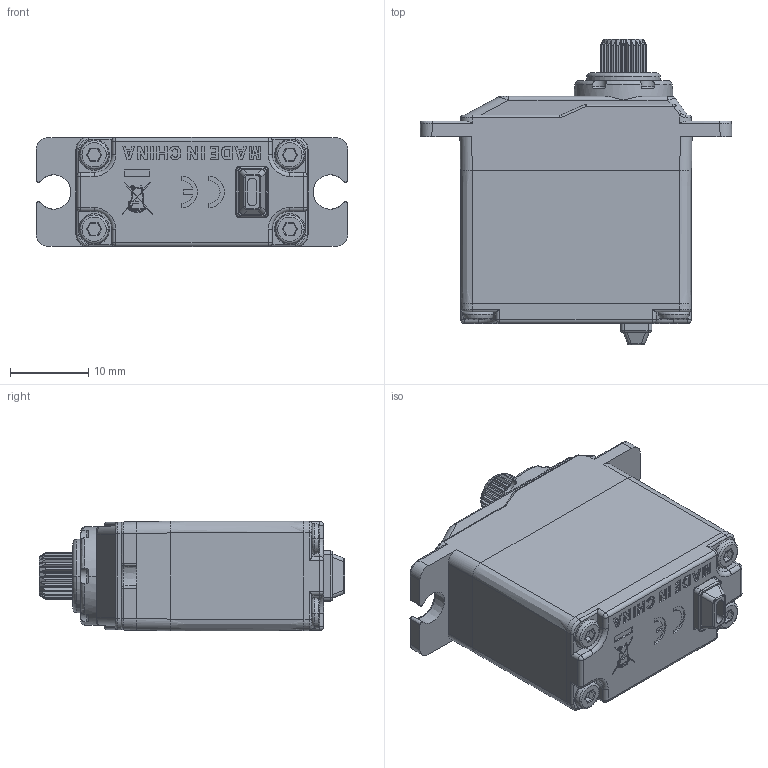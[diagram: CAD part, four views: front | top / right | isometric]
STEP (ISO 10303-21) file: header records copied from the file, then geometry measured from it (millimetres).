
FILE_DESCRIPTION((''),'2;1');
FILE_NAME('RSB24CLM','2025-10-15T',('扂'),(''),'PRO/ENGINEER BY PARAMETRIC TECHNOLOGY CORPORATION, 2010280','PRO/ENGINEER BY PARAMETRIC TECHNOLOGY CORPORATION, 2010280','');
FILE_SCHEMA(('CONFIG_CONTROL_DESIGN'));
Length unit declared in the file: millimetre
Products named in the file (1): DDJ-WATERPROOF14-B24
Bounding box: 39.8 x 39 x 14 mm (x, y, z)
Volume: 12231 mm3; surface area: 4012.5 mm2
Topology: 1 solids, 2 shells, 852 faces, 2235 edges, 1421 vertices
Faces by surface type: plane 385, cylinder 282, torus 72, bspline 50, extrusion 31, sphere 16, cone 16
Entity records: 30944 total; most frequent: CARTESIAN_POINT 10335, ORIENTED_EDGE 4442, DIRECTION 4078, EDGE_CURVE 2221, VERTEX_POINT 1421, AXIS2_PLACEMENT_3D 1401, VECTOR 1276, LINE 1245
